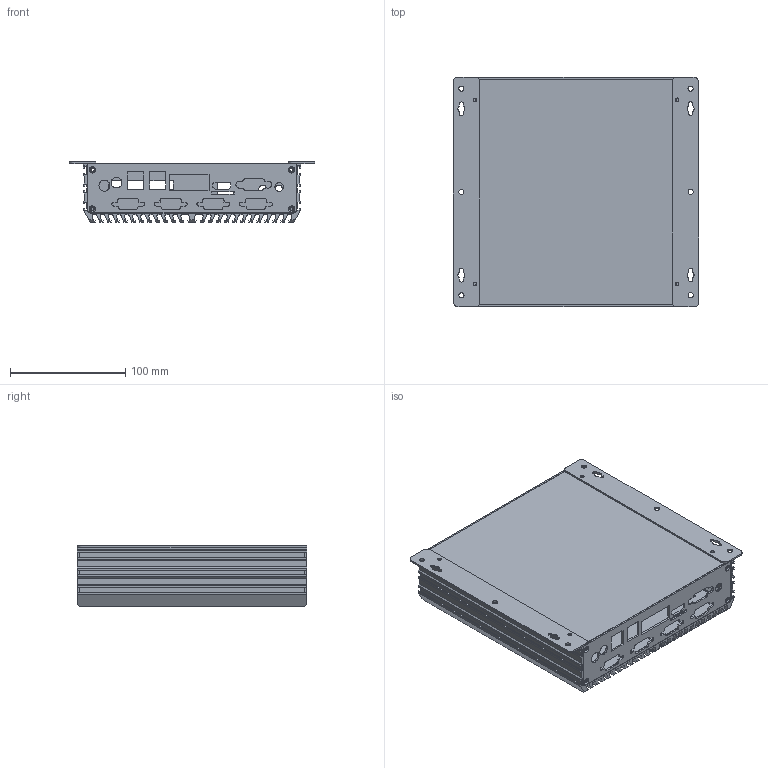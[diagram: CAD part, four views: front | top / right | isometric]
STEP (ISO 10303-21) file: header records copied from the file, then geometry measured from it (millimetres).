
FILE_DESCRIPTION((''),'2;1');
FILE_NAME('07-000-6ALL_ASM_42_ASM','2024-07-03T19:43:20',('Administrator'),(''),'CREO PARAMETRIC BY PTC INC, 2022164','CREO PARAMETRIC BY PTC INC, 2022164','');
FILE_SCHEMA(('AUTOMOTIVE_DESIGN { 1 0 10303 214 1 1 1 1 }'));
Length unit declared in the file: millimetre
Products named in the file (7): DINGGAI_5; DIBAN_1; XDB-BZ-30-004-3002019_13_3; BZ-30-004-3000182-SDB_2_13; 30_005_3000001_12; 30-005-3000001-BT_ASM_1_ASM; 07-000-6ALL_ASM_42_ASM
Assembly tree (7 placements, depth 3):
  07-000-6ALL_ASM_42_ASM
    DINGGAI_5
    DIBAN_1
    XDB-BZ-30-004-3002019_13_3
    BZ-30-004-3000182-SDB_2_13
    30-005-3000001-BT_ASM_1_ASM  x2
      30_005_3000001_12
Bounding box: 213.17 x 199.57 x 52.5 mm (x, y, z)
Volume: 433102.9 mm3; surface area: 321866.9 mm2
Topology: 6 solids, 6 shells, 826 faces, 2546 edges, 1756 vertices
Faces by surface type: plane 470, cylinder 320, cone 36
Entity records: 30813 total; most frequent: CARTESIAN_POINT 5422, ORIENTED_EDGE 4872, DIRECTION 4710, EDGE_CURVE 2436, VERTEX_POINT 1680, VECTOR 1580, LINE 1580, AXIS2_PLACEMENT_3D 1565
